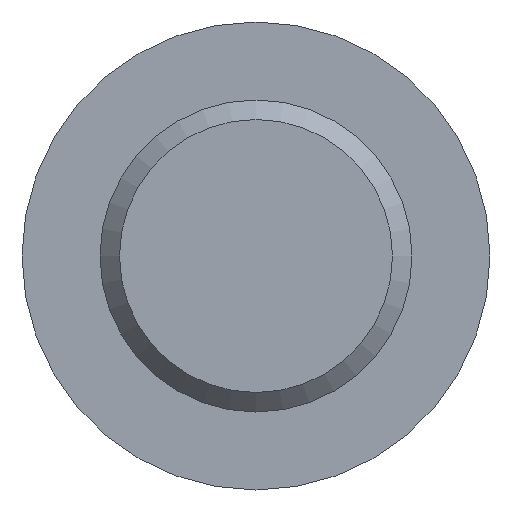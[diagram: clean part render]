
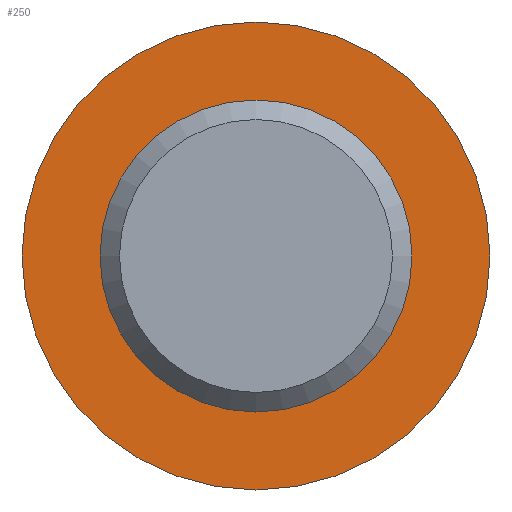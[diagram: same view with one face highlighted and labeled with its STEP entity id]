
A CAD part, front view. The second image highlights one B-rep face of the part: STEP entity #250.
In plain terms, the highlighted planar face has unit normal (0, -1, 0).
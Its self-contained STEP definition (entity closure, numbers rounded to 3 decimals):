
#17=FACE_BOUND('',#61,.T.);
#30=PLANE('',#303);
#43=FACE_OUTER_BOUND('',#60,.T.);
#60=EDGE_LOOP('',(#214,#215));
#61=EDGE_LOOP('',(#216,#217));
#100=CIRCLE('',#301,4.);
#101=CIRCLE('',#302,4.);
#102=CIRCLE('',#304,6.);
#103=CIRCLE('',#305,6.);
#126=VERTEX_POINT('',#456);
#127=VERTEX_POINT('',#457);
#128=VERTEX_POINT('',#462);
#129=VERTEX_POINT('',#463);
#157=EDGE_CURVE('',#126,#127,#100,.T.);
#158=EDGE_CURVE('',#127,#126,#101,.T.);
#160=EDGE_CURVE('',#128,#129,#102,.T.);
#161=EDGE_CURVE('',#129,#128,#103,.T.);
#214=ORIENTED_EDGE('',*,*,#160,.F.);
#215=ORIENTED_EDGE('',*,*,#161,.F.);
#216=ORIENTED_EDGE('',*,*,#157,.T.);
#217=ORIENTED_EDGE('',*,*,#158,.T.);
#250=ADVANCED_FACE('',(#43,#17),#30,.T.);
#301=AXIS2_PLACEMENT_3D('',#458,#375,#376);
#302=AXIS2_PLACEMENT_3D('',#459,#377,#378);
#303=AXIS2_PLACEMENT_3D('',#461,#380,#381);
#304=AXIS2_PLACEMENT_3D('',#464,#382,#383);
#305=AXIS2_PLACEMENT_3D('',#465,#384,#385);
#375=DIRECTION('center_axis',(0.,1.,0.));
#376=DIRECTION('ref_axis',(1.,0.,0.));
#377=DIRECTION('center_axis',(0.,1.,0.));
#378=DIRECTION('ref_axis',(1.,0.,0.));
#380=DIRECTION('center_axis',(0.,-1.,0.));
#381=DIRECTION('ref_axis',(0.,0.,-1.));
#382=DIRECTION('center_axis',(0.,1.,0.));
#383=DIRECTION('ref_axis',(1.,0.,0.));
#384=DIRECTION('center_axis',(0.,1.,0.));
#385=DIRECTION('ref_axis',(1.,0.,0.));
#456=CARTESIAN_POINT('',(0.,-340.,4.));
#457=CARTESIAN_POINT('',(0.,-340.,-4.));
#458=CARTESIAN_POINT('Origin',(0.,-340.,0.));
#459=CARTESIAN_POINT('Origin',(0.,-340.,0.));
#461=CARTESIAN_POINT('Origin',(0.,-340.,6.));
#462=CARTESIAN_POINT('',(0.,-340.,6.));
#463=CARTESIAN_POINT('',(0.,-340.,-6.));
#464=CARTESIAN_POINT('Origin',(0.,-340.,0.));
#465=CARTESIAN_POINT('Origin',(0.,-340.,0.));
